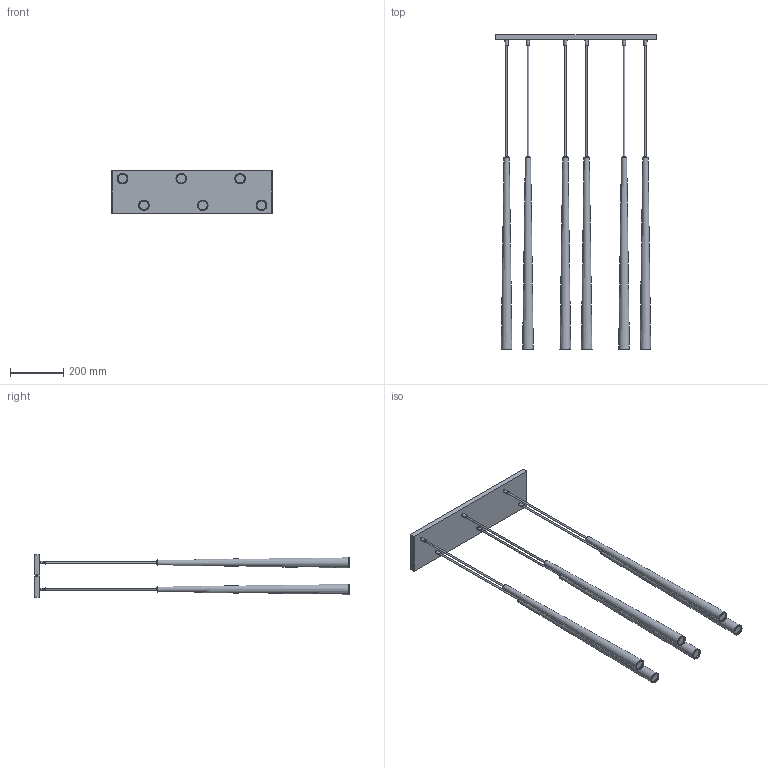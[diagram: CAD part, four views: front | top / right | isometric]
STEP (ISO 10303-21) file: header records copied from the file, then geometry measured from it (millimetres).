
FILE_DESCRIPTION(/* description */ (''),/* implementation_level */ '2;1');
FILE_NAME(/* name */ 'C:/Users/kubaw/OneDrive/Pulpit/Nowy folder (3)/6412_PIANO v3.step',/* time_stamp */ '2021-12-11T11:46:46+01:00',/* author */ (''),/* organization */ (''),/* preprocessor_version */ 'ST-DEVELOPER v18.1',/* originating_system */ 'Autodesk Translation Framework v10.10.0.1391',/* authorisation */ '');
FILE_SCHEMA (('AUTOMOTIVE_DESIGN { 1 0 10303 214 3 1 1 }'));
Length unit declared in the file: millimetre
Products named in the file (3): 6412_PIANO; PIANO_BAZA; ŚRUBA_P
Assembly tree (8 placements, depth 2):
  6412_PIANO
    PIANO_BAZA  x6
    ŚRUBA_P  x2
Bounding box: 602.3 x 1180 x 160 mm (x, y, z)
Volume: 5137253.7 mm3; surface area: 702824.5 mm2
Topology: 35 solids, 35 shells, 220 faces, 390 edges, 258 vertices
Faces by surface type: plane 140, cylinder 30, torus 24, cone 18, bspline 8
Full cylindrical faces by diameter (mm): 6 x12, 7.68 x2, 37 x6
Entity records: 1759 total; most frequent: CARTESIAN_POINT 379, DIRECTION 283, ORIENTED_EDGE 232, EDGE_CURVE 116, AXIS2_PLACEMENT_3D 111, VERTEX_POINT 77, LINE 61, VECTOR 61
